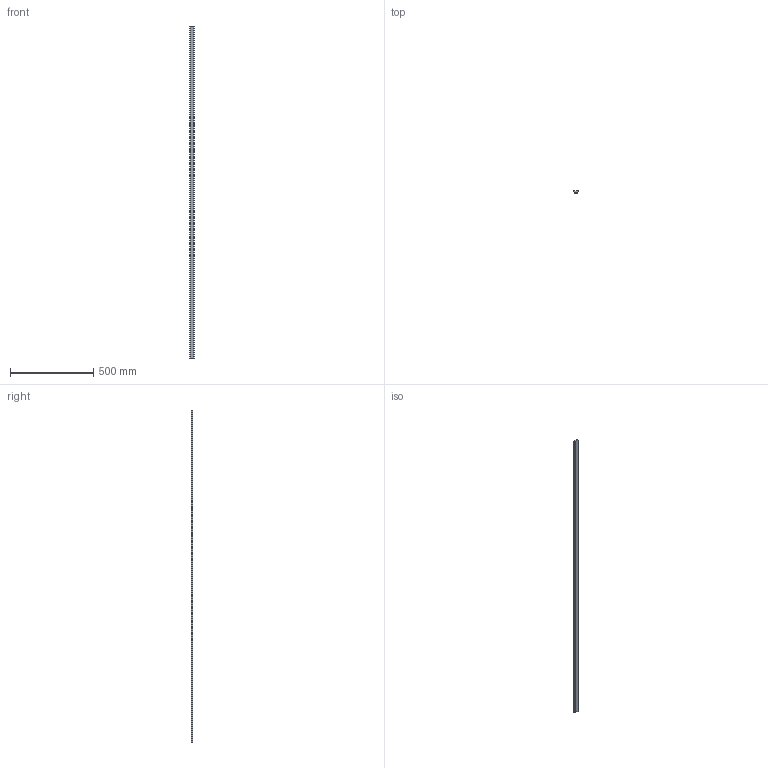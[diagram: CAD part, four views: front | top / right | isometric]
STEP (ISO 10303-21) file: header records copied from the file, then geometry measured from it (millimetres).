
FILE_DESCRIPTION (( 'STEP AP203' ), '1' );
FILE_NAME ('CAD_ChannelLine G2 Profil, 2000 mm.STEP', '2020-06-23T07:22:29', ( '' ), ( '' ), 'SwSTEP 2.0', 'SolidWorks 2019', '' );
FILE_SCHEMA (( 'CONFIG_CONTROL_DESIGN' ));
Length unit declared in the file: millimetre
Products named in the file (1): CAD_ChannelLine G2 Profil, 2000 mm
Bounding box: 26 x 10.5 x 2000 mm (x, y, z)
Volume: 469200 mm3; surface area: 146469.2 mm2
Topology: 1 solids, 1 shells, 10 faces, 24 edges, 16 vertices
Faces by surface type: plane 10
Entity records: 365 total; most frequent: CARTESIAN_POINT 51, ORIENTED_EDGE 48, DIRECTION 46, LINE 24, EDGE_CURVE 24, VECTOR 24, VERTEX_POINT 16, AXIS2_PLACEMENT_3D 11
